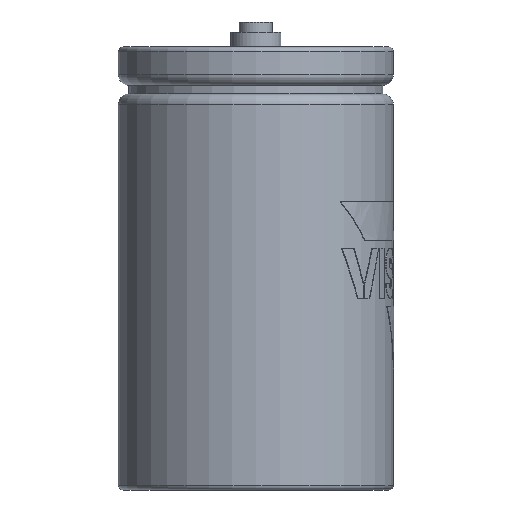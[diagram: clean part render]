
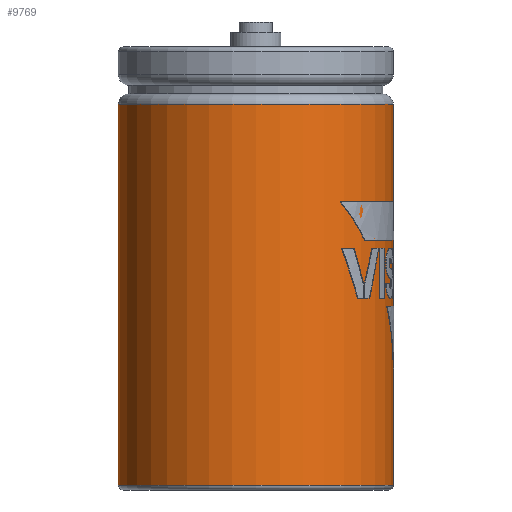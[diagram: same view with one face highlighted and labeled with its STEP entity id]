
A CAD part, left-side view. The second image highlights one B-rep face of the part: STEP entity #9769.
In plain terms, the highlighted cylindrical face has radius 32.5 mm (diameter 65 mm), a full revolution.
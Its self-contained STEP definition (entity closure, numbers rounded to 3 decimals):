
#9702 = TOROIDAL_SURFACE('',#9703,31.4,1.1);
#9703 = AXIS2_PLACEMENT_3D('',#9704,#9705,#9706);
#9704 = CARTESIAN_POINT('',(0.,0.,-102.6));
#9705 = DIRECTION('',(0.,0.,1.));
#9706 = DIRECTION('',(1.,0.,0.));
#9719 = VERTEX_POINT('',#9720);
#9720 = CARTESIAN_POINT('',(32.5,0.,-102.6));
#9742 = EDGE_CURVE('',#9719,#9719,#9743,.T.);
#9743 = SURFACE_CURVE('',#9744,(#9749,#9756),.PCURVE_S1.);
#9744 = CIRCLE('',#9745,32.5);
#9745 = AXIS2_PLACEMENT_3D('',#9746,#9747,#9748);
#9746 = CARTESIAN_POINT('',(0.,0.,-102.6));
#9747 = DIRECTION('',(0.,-0.,1.));
#9748 = DIRECTION('',(1.,0.,0.));
#9749 = PCURVE('',#9702,#9750);
#9750 = DEFINITIONAL_REPRESENTATION('',(#9751),#9755);
#9751 = LINE('',#9752,#9753);
#9752 = CARTESIAN_POINT('',(0.,6.283));
#9753 = VECTOR('',#9754,1.);
#9754 = DIRECTION('',(1.,0.));
#9755 = ( GEOMETRIC_REPRESENTATION_CONTEXT(2) 
PARAMETRIC_REPRESENTATION_CONTEXT() REPRESENTATION_CONTEXT('2D SPACE',''
  ) );
#9756 = PCURVE('',#9757,#9762);
#9757 = CYLINDRICAL_SURFACE('',#9758,32.5);
#9758 = AXIS2_PLACEMENT_3D('',#9759,#9760,#9761);
#9759 = CARTESIAN_POINT('',(0.,0.,-102.6));
#9760 = DIRECTION('',(0.,0.,1.));
#9761 = DIRECTION('',(1.,0.,0.));
#9762 = DEFINITIONAL_REPRESENTATION('',(#9763),#9767);
#9763 = LINE('',#9764,#9765);
#9764 = CARTESIAN_POINT('',(0.,0.));
#9765 = VECTOR('',#9766,1.);
#9766 = DIRECTION('',(1.,0.));
#9767 = ( GEOMETRIC_REPRESENTATION_CONTEXT(2) 
PARAMETRIC_REPRESENTATION_CONTEXT() REPRESENTATION_CONTEXT('2D SPACE',''
  ) );
#9769 = ADVANCED_FACE('',(#9770),#9757,.T.);
#9770 = FACE_BOUND('',#9771,.T.);
#9771 = EDGE_LOOP('',(#9772,#9773,#9796,#9823));
#9772 = ORIENTED_EDGE('',*,*,#9742,.T.);
#9773 = ORIENTED_EDGE('',*,*,#9774,.T.);
#9774 = EDGE_CURVE('',#9719,#9775,#9777,.T.);
#9775 = VERTEX_POINT('',#9776);
#9776 = CARTESIAN_POINT('',(32.5,0.,-12.5));
#9777 = SEAM_CURVE('',#9778,(#9782,#9789),.PCURVE_S1.);
#9778 = LINE('',#9779,#9780);
#9779 = CARTESIAN_POINT('',(32.5,0.,-102.6));
#9780 = VECTOR('',#9781,1.);
#9781 = DIRECTION('',(0.,0.,1.));
#9782 = PCURVE('',#9757,#9783);
#9783 = DEFINITIONAL_REPRESENTATION('',(#9784),#9788);
#9784 = LINE('',#9785,#9786);
#9785 = CARTESIAN_POINT('',(0.,0.));
#9786 = VECTOR('',#9787,1.);
#9787 = DIRECTION('',(0.,1.));
#9788 = ( GEOMETRIC_REPRESENTATION_CONTEXT(2) 
PARAMETRIC_REPRESENTATION_CONTEXT() REPRESENTATION_CONTEXT('2D SPACE',''
  ) );
#9789 = PCURVE('',#9757,#9790);
#9790 = DEFINITIONAL_REPRESENTATION('',(#9791),#9795);
#9791 = LINE('',#9792,#9793);
#9792 = CARTESIAN_POINT('',(6.283,0.));
#9793 = VECTOR('',#9794,1.);
#9794 = DIRECTION('',(0.,1.));
#9795 = ( GEOMETRIC_REPRESENTATION_CONTEXT(2) 
PARAMETRIC_REPRESENTATION_CONTEXT() REPRESENTATION_CONTEXT('2D SPACE',''
  ) );
#9796 = ORIENTED_EDGE('',*,*,#9797,.F.);
#9797 = EDGE_CURVE('',#9775,#9775,#9798,.T.);
#9798 = SURFACE_CURVE('',#9799,(#9804,#9811),.PCURVE_S1.);
#9799 = CIRCLE('',#9800,32.5);
#9800 = AXIS2_PLACEMENT_3D('',#9801,#9802,#9803);
#9801 = CARTESIAN_POINT('',(0.,0.,-12.5));
#9802 = DIRECTION('',(0.,-0.,1.));
#9803 = DIRECTION('',(1.,0.,0.));
#9804 = PCURVE('',#9757,#9805);
#9805 = DEFINITIONAL_REPRESENTATION('',(#9806),#9810);
#9806 = LINE('',#9807,#9808);
#9807 = CARTESIAN_POINT('',(0.,90.1));
#9808 = VECTOR('',#9809,1.);
#9809 = DIRECTION('',(1.,0.));
#9810 = ( GEOMETRIC_REPRESENTATION_CONTEXT(2) 
PARAMETRIC_REPRESENTATION_CONTEXT() REPRESENTATION_CONTEXT('2D SPACE',''
  ) );
#9811 = PCURVE('',#9812,#9817);
#9812 = TOROIDAL_SURFACE('',#9813,30.,2.5);
#9813 = AXIS2_PLACEMENT_3D('',#9814,#9815,#9816);
#9814 = CARTESIAN_POINT('',(0.,0.,-12.5));
#9815 = DIRECTION('',(0.,0.,1.));
#9816 = DIRECTION('',(1.,0.,0.));
#9817 = DEFINITIONAL_REPRESENTATION('',(#9818),#9822);
#9818 = LINE('',#9819,#9820);
#9819 = CARTESIAN_POINT('',(0.,0.));
#9820 = VECTOR('',#9821,1.);
#9821 = DIRECTION('',(1.,0.));
#9822 = ( GEOMETRIC_REPRESENTATION_CONTEXT(2) 
PARAMETRIC_REPRESENTATION_CONTEXT() REPRESENTATION_CONTEXT('2D SPACE',''
  ) );
#9823 = ORIENTED_EDGE('',*,*,#9774,.F.);
